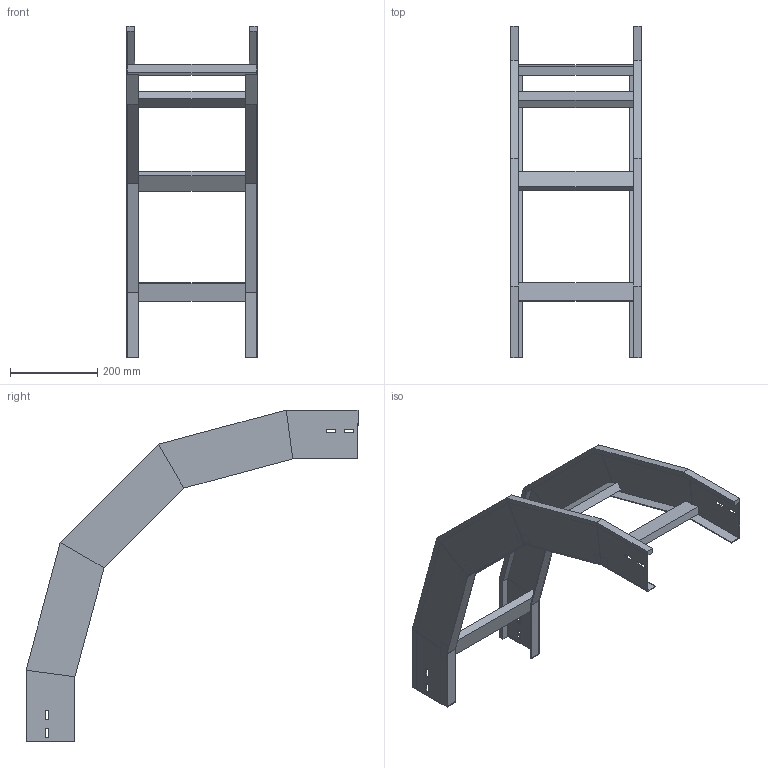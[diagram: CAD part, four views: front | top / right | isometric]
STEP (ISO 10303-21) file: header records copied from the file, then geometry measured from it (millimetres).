
FILE_DESCRIPTION (( 'STEP AP214' ), '1' );
FILE_NAME ('33B5J300.step', '2025-02-21T15:02:59', ( '' ), ( '' ), 'SwSTEP 2.0', 'SolidWorks 2023', '' );
FILE_SCHEMA (( 'AUTOMOTIVE_DESIGN' ));
Length unit declared in the file: millimetre
Products named in the file (3): TRAVERSINO_300; LONGH.DISCESA_90°_H112.5_R500; 33B5J300
Assembly tree (6 placements, depth 2):
  33B5J300
    LONGH.DISCESA_90°_H112.5_R500  x2
    TRAVERSINO_300  x4
Bounding box: 300 x 762.85 x 762.85 mm (x, y, z)
Volume: 2068482 mm3; surface area: 872203.5 mm2
Topology: 6 solids, 6 shells, 140 faces, 320 edges, 192 vertices
Faces by surface type: plane 140
Entity records: 1872 total; most frequent: CARTESIAN_POINT 309, ORIENTED_EDGE 296, DIRECTION 294, VECTOR 148, LINE 148, EDGE_CURVE 148, VERTEX_POINT 88, AXIS2_PLACEMENT_3D 73
